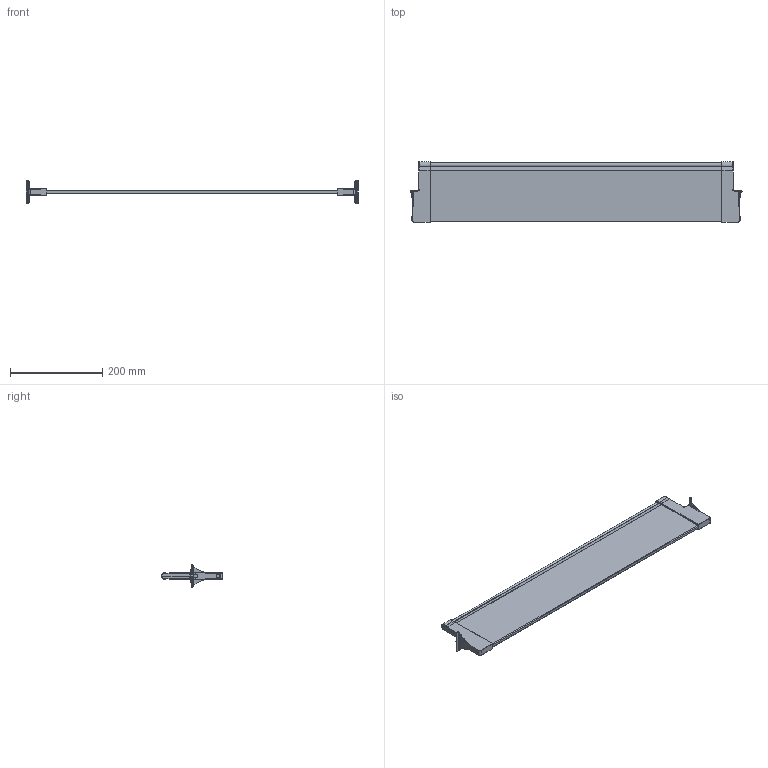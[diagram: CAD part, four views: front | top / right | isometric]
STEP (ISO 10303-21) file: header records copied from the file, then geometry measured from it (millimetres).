
FILE_DESCRIPTION (( 'STEP AP214' ), '1' );
FILE_NAME ('Nova-Pro P622 Querteiler H90Nova PRO Querteiler_H90_KAB 800_16.step', '2009-11-06T06:59:34', ( 'Waldinger Reinhard' ), ( 'Grass GmbH' ), 'SwSTEP 2.0', 'SolidWorks 2009', '' );
FILE_SCHEMA (( 'AUTOMOTIVE_DESIGN' ));
Length unit declared in the file: millimetre
Products named in the file (1): Nova-Pro P622 Querteiler H90Nova PRO Querteiler_H90_KAB 800_16
Bounding box: 718.1 x 132 x 49.97 mm (x, y, z)
Volume: 754022.2 mm3; surface area: 195234.6 mm2
Topology: 1 solids, 1 shells, 248 faces, 578 edges, 334 vertices
Faces by surface type: cylinder 107, bspline 64, plane 51, torus 12, sphere 12, cone 2
Entity records: 11002 total; most frequent: CARTESIAN_POINT 5879, ORIENTED_EDGE 1148, DIRECTION 966, EDGE_CURVE 574, AXIS2_PLACEMENT_3D 369, VERTEX_POINT 334, EDGE_LOOP 254, FACE_OUTER_BOUND 248
